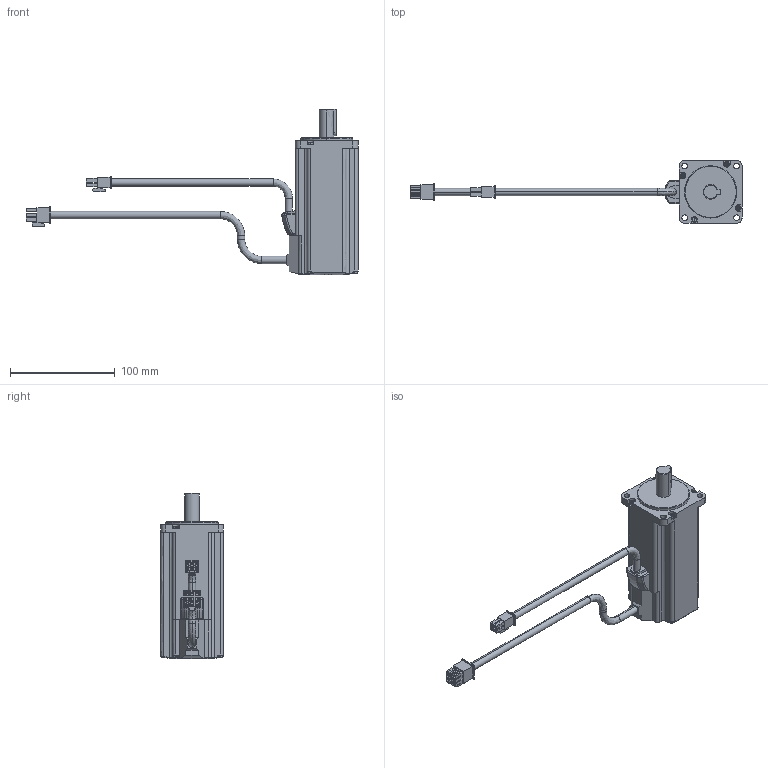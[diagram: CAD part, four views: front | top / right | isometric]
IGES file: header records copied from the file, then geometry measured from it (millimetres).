
Start section:  PTC IGES file: RSMZ-04BA3xS.igs
Global section: file name: RSMZ-04BA3xS.igs; native system: Pro/ENGINEER by Parametric Technology Corporation; preprocessor: 2004440; author: Administrator; organization: Unknown; date: 070904.190614; units: millimetre
Bounding box: 317.7 x 60 x 158 mm (x, y, z)
Volume: 432285.7 mm3; surface area: 54450.7 mm2
Topology: 1 solids, 1 shells, 465 faces, 1176 edges, 763 vertices
Faces by surface type: bspline 335, revolution 130
